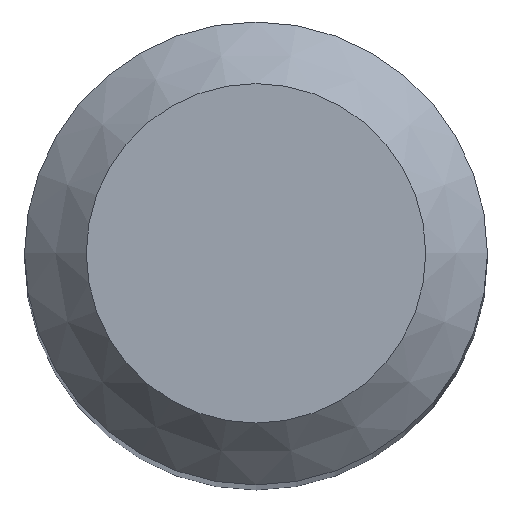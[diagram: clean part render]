
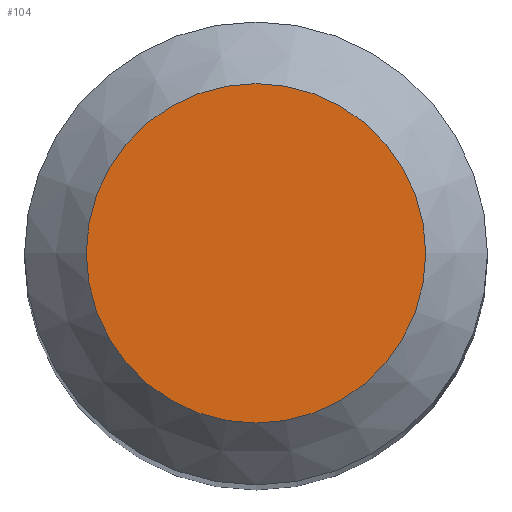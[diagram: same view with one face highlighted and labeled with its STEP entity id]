
A CAD part, top view. The second image highlights one B-rep face of the part: STEP entity #104.
In plain terms, the highlighted planar face has unit normal (0, 0, 1).
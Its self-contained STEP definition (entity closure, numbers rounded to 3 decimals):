
#88=CARTESIAN_POINT('',(2.2,0.0,55.0));
#89=DIRECTION('',(0.0,0.0,1.0));
#90=DIRECTION('',(1.0,0.0,0.0));
#91=AXIS2_PLACEMENT_3D('',#88,#89,#90);
#92=PLANE('',#91);
#93=CARTESIAN_POINT('',(-2.2,0.0,55.));
#94=VERTEX_POINT('',#93);
#95=CARTESIAN_POINT('',(0.0,0.0,55.));
#96=DIRECTION('',(0.0,0.0,-1.0));
#97=DIRECTION('',(-1.0,0.0,0.0));
#98=AXIS2_PLACEMENT_3D('',#95,#96,#97);
#99=CIRCLE('',#98,2.2);
#100=EDGE_CURVE('',#94,#94,#99,.T.);
#101=ORIENTED_EDGE('',*,*,#100,.F.);
#102=EDGE_LOOP('',(#101));
#103=FACE_OUTER_BOUND('',#102,.T.);
#104=ADVANCED_FACE('',(#103),#92,.T.);
